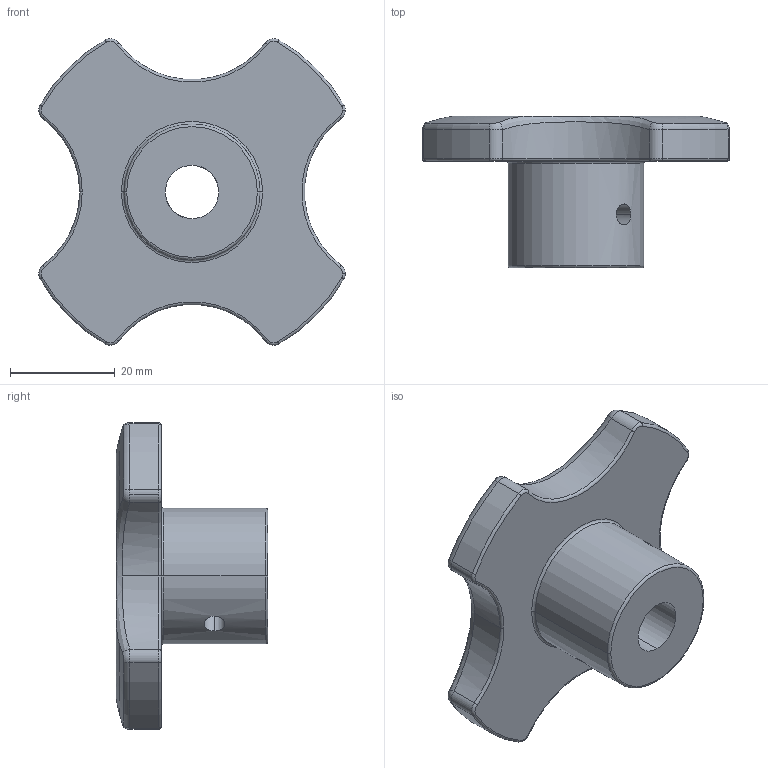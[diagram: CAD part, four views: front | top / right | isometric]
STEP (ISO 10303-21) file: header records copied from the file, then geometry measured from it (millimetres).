
FILE_DESCRIPTION (( 'STEP AP203' ), '1' );
FILE_NAME ('13.20004.STEP', '2017-10-03T16:35:42', ( 'Ricardo' ), ( '' ), 'SwSTEP 2.0', 'SolidWorks 2015', '' );
FILE_SCHEMA (( 'CONFIG_CONTROL_DESIGN' ));
Length unit declared in the file: millimetre
Products named in the file (1): 13.20004
Bounding box: 58.69 x 29 x 58.69 mm (x, y, z)
Volume: 27919.4 mm3; surface area: 9288.1 mm2
Topology: 1 solids, 1 shells, 84 faces, 198 edges, 118 vertices
Faces by surface type: torus 33, cylinder 29, sphere 8, cone 6, plane 4, bspline 4
Entity records: 3352 total; most frequent: CARTESIAN_POINT 1330, DIRECTION 445, ORIENTED_EDGE 396, AXIS2_PLACEMENT_3D 207, EDGE_CURVE 198, CIRCLE 126, VERTEX_POINT 118, EDGE_LOOP 92
